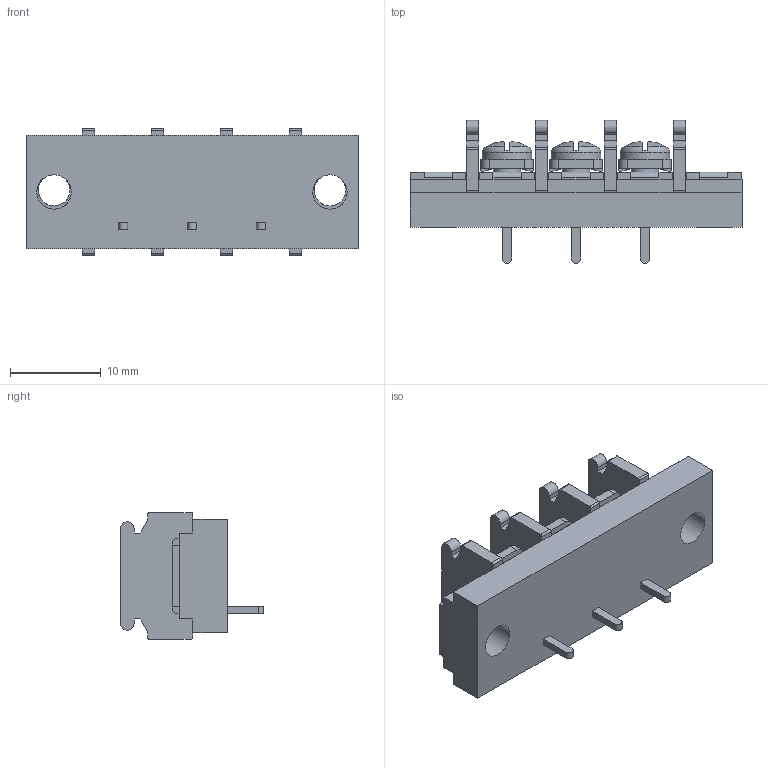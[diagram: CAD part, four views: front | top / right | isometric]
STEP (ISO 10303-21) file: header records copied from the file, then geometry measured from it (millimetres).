
FILE_DESCRIPTION(/* description */ ('Alibre Inc.'),/* implementation_level */ '2;1');
FILE_NAME(/* name */ 'export0',/* time_stamp */ '2015-10-23T19:35:13+09:00',/* author */ (''),/* organization */ (''),/* preprocessor_version */ 'ST-DEVELOPER v14',/* originating_system */ 'Alibre',/* authorisation */ '');
FILE_SCHEMA (('CONFIG_CONTROL_DESIGN'));
Length unit declared in the file: centimetre
Products named in the file (1): ID_1
Bounding box: 36.68 x 15.8 x 14 mm (x, y, z)
Volume: 3062.8 mm3; surface area: 2981.6 mm2
Topology: 1 solids, 17 shells, 794 faces, 2131 edges, 1405 vertices
Faces by surface type: plane 604, bspline 104, cylinder 62, cone 12, torus 6, sphere 6
Full cylindrical faces by diameter (mm): 3 x3, 3.5 x2, 3.8 x2, 5.5 x3
Entity records: 23698 total; most frequent: CARTESIAN_POINT 5414, ORIENTED_EDGE 4198, DIRECTION 2747, EDGE_CURVE 2099, VECTOR 1580, LINE 1580, VERTEX_POINT 1389, AXIS2_PLACEMENT_3D 861
